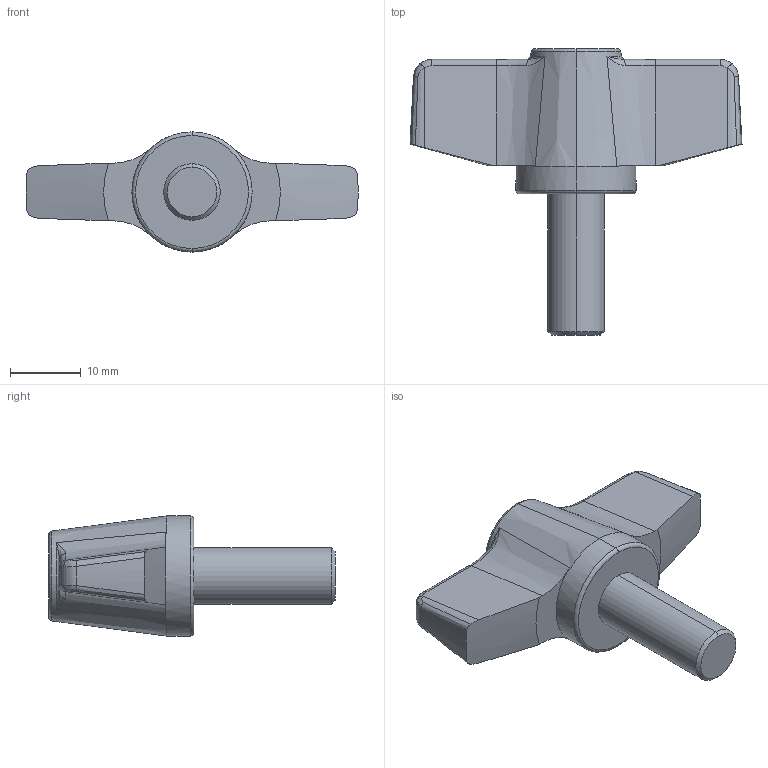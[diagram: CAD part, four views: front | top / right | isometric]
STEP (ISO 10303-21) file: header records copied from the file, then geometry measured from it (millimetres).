
FILE_DESCRIPTION (( 'STEP AP203' ), '1' );
FILE_NAME ('wn715-3_m8x20.step', '2007-01-19T12:37:43', ( 'Magnus Fahlstrom' ), ( '' ), 'SwSTEP 2.0', 'SolidWorks 2007', '' );
FILE_SCHEMA (( 'CONFIG_CONTROL_DESIGN' ));
Length unit declared in the file: millimetre
Products named in the file (1): wn715-3_m8x20
Bounding box: 46.97 x 40.5 x 17 mm (x, y, z)
Volume: 7503.1 mm3; surface area: 2993.5 mm2
Topology: 1 solids, 1 shells, 66 faces, 158 edges, 92 vertices
Faces by surface type: cone 16, bspline 16, torus 12, plane 12, cylinder 10
Entity records: 2375 total; most frequent: CARTESIAN_POINT 897, ORIENTED_EDGE 308, DIRECTION 280, EDGE_CURVE 154, AXIS2_PLACEMENT_3D 123, VERTEX_POINT 92, CIRCLE 72, EDGE_LOOP 68
